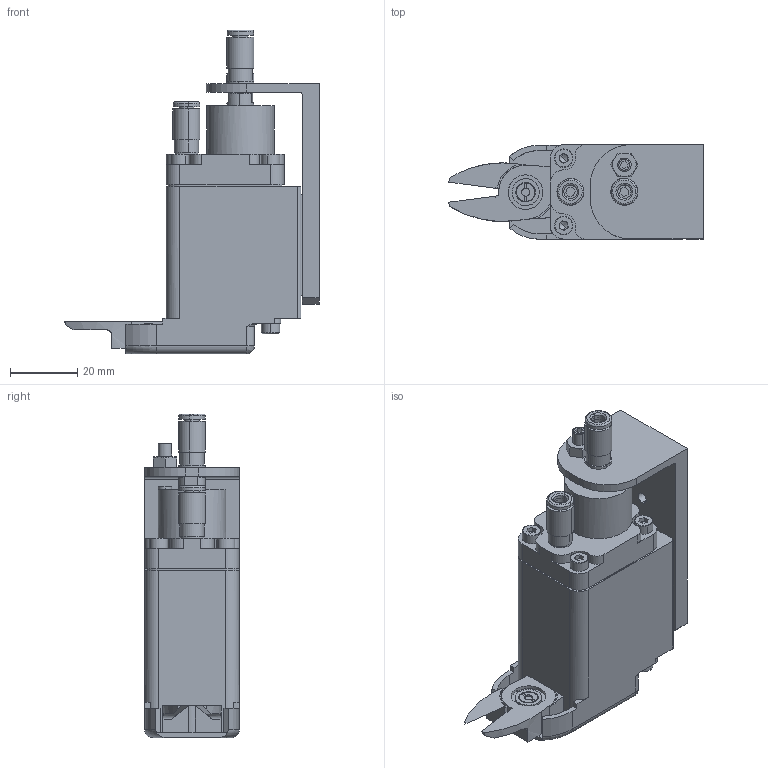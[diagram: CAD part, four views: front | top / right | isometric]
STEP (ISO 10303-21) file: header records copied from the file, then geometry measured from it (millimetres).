
FILE_DESCRIPTION (( 'STEP AP203' ), '1' );
FILE_NAME ('HNW-201.STEP', '2022-04-18T03:10:21', ( '' ), ( '' ), 'SwSTEP 2.0', 'SolidWorks 2021', '' );
FILE_SCHEMA (( 'CONFIG_CONTROL_DESIGN' ));
Length unit declared in the file: millimetre
Products named in the file (1): HNW-201
Bounding box: 75.51 x 28 x 96.1 mm (x, y, z)
Volume: 79745.4 mm3; surface area: 22660.4 mm2
Topology: 4 solids, 20 shells, 578 faces, 1366 edges, 853 vertices
Faces by surface type: plane 245, cylinder 212, cone 69, torus 30, bspline 22
Entity records: 17536 total; most frequent: CARTESIAN_POINT 4032, DIRECTION 2900, ORIENTED_EDGE 2692, EDGE_CURVE 1346, AXIS2_PLACEMENT_3D 1118, VERTEX_POINT 853, EDGE_LOOP 665, VECTOR 664
